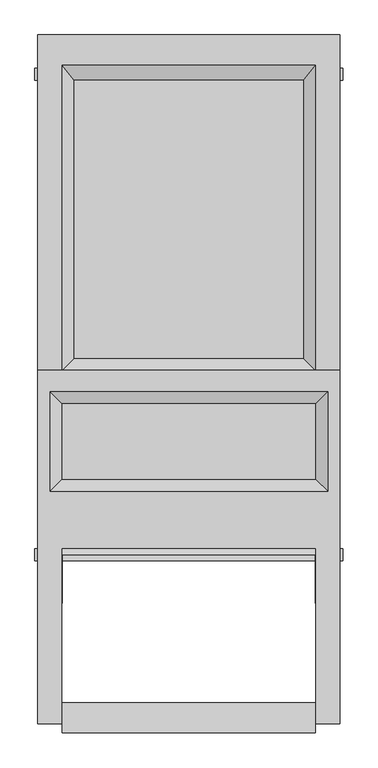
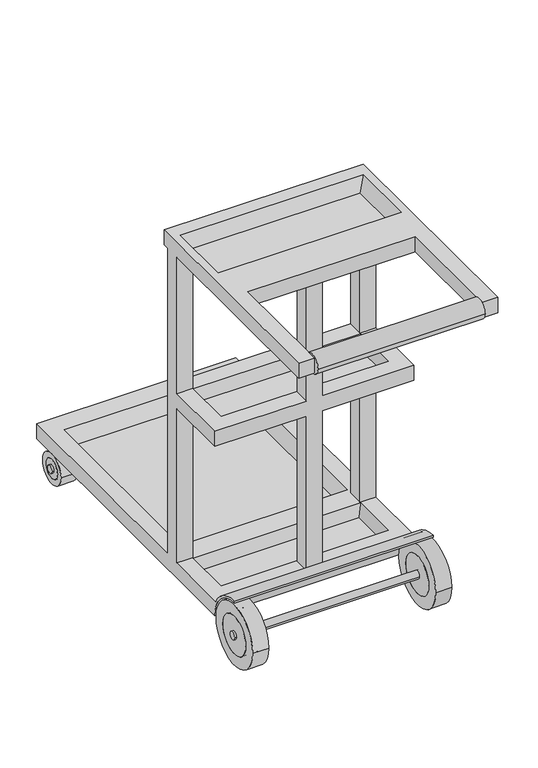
"""IFC4 building model written with IfcOpenShell, lengths in millimetres: proxy geometry, BIMHealth-Cleaners_Trolley-LOD2A-v1 : BIMHealth-Cleaners_Trolley-LOD2A-v1."""

import ifcopenshell
import ifcopenshell.guid

model = None  # the IFC model being written
_history = None  # IfcOwnerHistory: only IFC2X3 demands one
_inside = {}  # id of a spatial element -> (the spatial element, [elements in it])
_under = {}  # id of a project, library or spatial element -> (it, [spatial elements below it])
_declared = {}  # id of a project -> (the project, [libraries it declares])
_typed = {}  # id of a type object -> (the type object, [elements of that type])
_made_of = {}  # id of a material, layer set ... -> (it, [elements and type objects made of it])


def new_model(schema):
    """Start an empty IFC model of exactly this schema.

    Asked for "IFC4X3", IfcOpenShell would pick the latest addendum, in which some entities
    have other attributes; the version numbers below select the first issue.
    IFC2X3 requires an IfcOwnerHistory on every rooted entity: one is made here for all.
    """
    global model, _history
    if schema == "IFC4X3":
        model = ifcopenshell.file(schema_version=(4, 3, 0, 0))
    else:
        model = ifcopenshell.file(schema=schema)
    _inside.clear()
    _under.clear()
    _declared.clear()
    _typed.clear()
    _made_of.clear()
    _history = None
    if model.schema == "IFC2X3":
        org = make("IfcOrganization", Name="unknown")
        user = make(
            "IfcPersonAndOrganization",
            ThePerson=make("IfcPerson", FamilyName="unknown"),
            TheOrganization=org,
        )
        app = make(
            "IfcApplication",
            ApplicationDeveloper=org,
            Version="unknown",
            ApplicationFullName="unknown",
            ApplicationIdentifier="unknown",
        )
        _history = make(
            "IfcOwnerHistory",
            OwningUser=user,
            OwningApplication=app,
            ChangeAction="ADDED",
            CreationDate=0,
        )
    return model


def make(cls, **values):
    """One entity of the class cls with the attributes given. An attribute that is None is left unset."""
    return model.create_entity(
        cls, **{name: value for name, value in values.items() if value is not None}
    )


def rooted(cls, **values):
    """An entity with a GlobalId (a new one), such as an element, a storey or a relation."""
    return make(cls, GlobalId=ifcopenshell.guid.new(), OwnerHistory=_history, **values)


def si_unit(unit_type, name, prefix=None):
    """IfcSIUnit, for example si_unit("LENGTHUNIT", "METRE", prefix="MILLI")."""
    return make("IfcSIUnit", UnitType=unit_type, Prefix=prefix, Name=name)


def assignment(units):
    """IfcUnitAssignment: the units of a project."""
    return None if units is None else make("IfcUnitAssignment", Units=units)


def point(xyz):
    """IfcCartesianPoint."""
    return None if xyz is None else make("IfcCartesianPoint", Coordinates=xyz)


def direction(xyz):
    """IfcDirection."""
    return None if xyz is None else make("IfcDirection", DirectionRatios=xyz)


def frame(location, z_axis=None, x_axis=None):
    """IfcAxis2Placement3D, a coordinate frame: its origin and axes. An axis left out is left unset."""
    return make(
        "IfcAxis2Placement3D",
        Location=point(location),
        Axis=direction(z_axis),
        RefDirection=direction(x_axis),
    )


def frame_2d(location, x_axis=None):
    """IfcAxis2Placement2D, a coordinate frame in the plane: its origin and x axis."""
    return make(
        "IfcAxis2Placement2D", Location=point(location), RefDirection=direction(x_axis)
    )


def origin():
    """The frame at (0, 0, 0) with its axes left unset."""
    return frame((0.0, 0.0, 0.0))


def place(relative_to, where):
    """IfcLocalPlacement: puts the frame where relative to a parent placement (None: the world)."""
    return make(
        "IfcLocalPlacement", PlacementRelTo=relative_to, RelativePlacement=where
    )


def context(
    kind, dimensions, precision=None, world=None, true_north=None, identifier=None
):
    """IfcGeometricRepresentationContext, for example the 3D "Model" context."""
    return make(
        "IfcGeometricRepresentationContext",
        ContextIdentifier=identifier,
        ContextType=kind,
        CoordinateSpaceDimension=dimensions,
        Precision=precision,
        WorldCoordinateSystem=world,
        TrueNorth=true_north,
    )


def project(units=None, contexts=None):
    """IfcProject with its units and contexts."""
    return rooted(
        "IfcProject",
        Name="project",
        RepresentationContexts=contexts,
        UnitsInContext=assignment(units),
    )


def spatial(cls, under=None, at=None, **own):
    """A site, building, storey or space (cls), placed at a placement, below another one or the project."""
    s = rooted(cls, ObjectPlacement=at, **own)
    if under is not None:
        _under.setdefault(under.id(), (under, []))[1].append(s)
    return s


def polyline(points):
    """IfcPolyline through the points."""
    return make("IfcPolyline", Points=[point(p) for p in points])


def circle_curve(where, radius):
    """IfcCircle in the frame where."""
    return make("IfcCircle", Position=where, Radius=radius)


def trimmed(basis, trim1, trim2, sense, master):
    """IfcTrimmedCurve: the piece of a basis curve between two trims."""
    return make(
        "IfcTrimmedCurve",
        BasisCurve=basis,
        Trim1=trim1,
        Trim2=trim2,
        SenseAgreement=sense,
        MasterRepresentation=master,
    )


def segment(curve, same_sense, transition):
    """IfcCompositeCurveSegment."""
    return make(
        "IfcCompositeCurveSegment",
        Transition=transition,
        SameSense=same_sense,
        ParentCurve=curve,
    )


def composite_curve(segments, self_intersect=None):
    """IfcCompositeCurve: segments joined end to end."""
    return make("IfcCompositeCurve", Segments=segments, SelfIntersect=self_intersect)


def outline(outer, holes=None, kind="AREA"):
    """IfcArbitraryClosedProfileDef: a profile drawn as a closed curve; with holes, ...WithVoids."""
    if holes is None:
        return make("IfcArbitraryClosedProfileDef", ProfileType=kind, OuterCurve=outer)
    return make(
        "IfcArbitraryProfileDefWithVoids",
        ProfileType=kind,
        OuterCurve=outer,
        InnerCurves=holes,
    )


def extrude(swept, where, along, depth):
    """IfcExtrudedAreaSolid: the profile swept, set in the frame where, extruded along a direction by depth."""
    return make(
        "IfcExtrudedAreaSolid",
        SweptArea=swept,
        Position=where,
        ExtrudedDirection=direction(along),
        Depth=depth,
    )


def shape(context_of_items, identifier, shape_type, items):
    """IfcShapeRepresentation: the items that make up one representation, for example the "Body"."""
    return make(
        "IfcShapeRepresentation",
        ContextOfItems=context_of_items,
        RepresentationIdentifier=identifier,
        RepresentationType=shape_type,
        Items=items,
    )


def source(mapping_origin, context_of_items, identifier, shape_type, items):
    """IfcRepresentationMap: a shape defined once, which mapped items show again and again."""
    return make(
        "IfcRepresentationMap",
        MappingOrigin=mapping_origin,
        MappedRepresentation=shape(context_of_items, identifier, shape_type, items),
    )


def transform(
    local_origin,
    x_axis=None,
    y_axis=None,
    z_axis=None,
    scale=None,
    scale2=None,
    scale3=None,
    uniform=True,
):
    """IfcCartesianTransformationOperator3D, or its non-uniform kind. x_axis, y_axis, z_axis: its Axis1, 2, 3."""
    if uniform:
        return make(
            "IfcCartesianTransformationOperator3D",
            Axis1=direction(x_axis),
            Axis2=direction(y_axis),
            LocalOrigin=point(local_origin),
            Scale=scale,
            Axis3=direction(z_axis),
        )
    return make(
        "IfcCartesianTransformationOperator3DnonUniform",
        Axis1=direction(x_axis),
        Axis2=direction(y_axis),
        LocalOrigin=point(local_origin),
        Scale=scale,
        Axis3=direction(z_axis),
        Scale2=scale2,
        Scale3=scale3,
    )


def mapped(mapping_source, mapping_target):
    """IfcMappedItem: shows the shape of a source again, moved by a transform."""
    return make(
        "IfcMappedItem", MappingSource=mapping_source, MappingTarget=mapping_target
    )


def made_of(thing, what):
    """Note that an element or type object is made of a material, layer set ...; save() writes the relation."""
    if what is not None:
        _made_of.setdefault(what.id(), (what, []))[1].append(thing)
    return thing


def element(
    cls,
    number,
    at=None,
    inside=None,
    cuts=None,
    type_object=None,
    material=None,
    context=None,
    identifier="Body",
    shape_type=None,
    held_by="IfcProductDefinitionShape",
    body=None,
    shapes=None,
    **own,
):
    """One element of the class cls, such as IfcWall. Its Tag is "e" and its number.

    at: its placement. inside: the storey or other place that contains it. cuts: it is an
    opening in that element (IfcRelVoidsElement). A single representation is given by context,
    identifier, shape_type and body (its items); several are given by shapes. held_by: the class
    of the entity that holds the representations. save() writes the other relations.
    """
    e = rooted(cls, Tag="e%d" % number, ObjectPlacement=at, **own)
    if body is not None:
        shapes = [shape(context, identifier, shape_type, body)]
    if shapes is not None:
        e.Representation = make(held_by, Representations=shapes)
    if inside is not None:
        _inside.setdefault(inside.id(), (inside, []))[1].append(e)
    if cuts is not None:
        rooted(
            "IfcRelVoidsElement", RelatingBuildingElement=cuts, RelatedOpeningElement=e
        )
    if type_object is not None:
        _typed.setdefault(type_object.id(), (type_object, []))[1].append(e)
    return made_of(e, material)


def aggregate(whole, parts):
    """IfcRelAggregates: a whole, such as a stair, and the parts it consists of."""
    return rooted("IfcRelAggregates", RelatingObject=whole, RelatedObjects=parts)


def save(model, path):
    """Write the relations noted so far, then the file.

    IfcRelAggregates (storeys below a building ...), IfcRelContainedInSpatialStructure (elements
    in a storey), IfcRelDefinesByType, IfcRelAssociatesMaterial and IfcRelDeclares: one each for
    every whole, place, type object, material and project.
    """
    for whole, parts in _under.values():
        aggregate(whole, parts)
    for where, things in _inside.values():
        rooted(
            "IfcRelContainedInSpatialStructure",
            RelatedElements=things,
            RelatingStructure=where,
        )
    for kind, things in _typed.values():
        rooted("IfcRelDefinesByType", RelatedObjects=things, RelatingType=kind)
    for what, things in _made_of.values():
        rooted("IfcRelAssociatesMaterial", RelatedObjects=things, RelatingMaterial=what)
    for by, libraries in _declared.values():
        rooted("IfcRelDeclares", RelatingContext=by, RelatedDefinitions=libraries)
    model.write(path)


def plane_surface(at):
    """IfcPlane: the flat surface through the origin of the frame at, square to its z axis."""
    return make("IfcPlane", Position=at)


def cylinder_surface(at, radius):
    """IfcCylindricalSurface: all points at the distance radius from the z axis of the frame at."""
    return make("IfcCylindricalSurface", Position=at, Radius=radius)


def revolved_surface(curve, axis_point, axis_direction):
    """IfcSurfaceOfRevolution: the curve turned about the line through axis_point along axis_direction."""
    return make(
        "IfcSurfaceOfRevolution",
        SweptCurve=make("IfcArbitraryOpenProfileDef", ProfileType="CURVE", Curve=curve),
        AxisPosition=make("IfcAxis1Placement", Location=point(axis_point), Axis=direction(axis_direction)),
    )


def advanced_brep(points, edges, surfaces, faces):
    """IfcAdvancedBrep: a solid bounded by faces that lie on surfaces and meet in shared edges.

    An edge is (start, end): straight between two places in points (the first is 0);
    or (start, end, curve); or (start, end, curve, False) where it runs against its curve.
    A face is (place in surfaces, loops), or (place, loops, False) where it looks against
    its surface's normal. A loop lists edges by number (the first is 1), with a minus sign
    where the edge is run from its end to its start. The first loop is the outer one.
    """
    corners = [point(p) for p in points]
    vertices = [make("IfcVertexPoint", VertexGeometry=c) for c in corners]
    made = []
    for start, end, *more in edges:
        made.append(
            make(
                "IfcEdgeCurve",
                EdgeStart=vertices[start],
                EdgeEnd=vertices[end],
                EdgeGeometry=more[0] if more else make("IfcPolyline", Points=[corners[start], corners[end]]),
                SameSense=more[1] if len(more) > 1 else True,
            )
        )
    hull = []
    for where, loops, *sense in faces:
        bounds = []
        for j, loop in enumerate(loops):
            ring = [make("IfcOrientedEdge", EdgeElement=made[abs(k) - 1], Orientation=k > 0) for k in loop]
            bounds.append(
                make(
                    "IfcFaceOuterBound" if j == 0 else "IfcFaceBound",
                    Bound=make("IfcEdgeLoop", EdgeList=ring),
                    Orientation=True,
                )
            )
        hull.append(make("IfcAdvancedFace", Bounds=bounds, FaceSurface=surfaces[where], SameSense=sense[0] if sense else True))
    return make("IfcAdvancedBrep", Outer=make("IfcClosedShell", CfsFaces=hull))


def generic_models_fc8a6c12(model_context):
    return source(origin(), model_context, "Body", "SolidModel", [
        extrude(outline(composite_curve([segment(trimmed(circle_curve(frame_2d((-1330.0, 952.0)), 25.0), [point((-1305.0, 952.0))], [point((-1355.0, 952.0))], False, "CARTESIAN"), True, "CONTINUOUS"), segment(trimmed(circle_curve(frame_2d((-1330.0, 952.0)), 25.0), [point((-1355.0, 952.0))], [point((-1305.0, 952.0))], False, "CARTESIAN"), True, "CONTINUOUS")], self_intersect=False)), frame((40.0, 0.0, 0.0), z_axis=(1.0, 0.0, 0.0), x_axis=(0.0, 1.0, 0.0)), (0.0, 0.0, 1.0), 420.0),
        advanced_brep(
        [(500.0, -200.0, 80.0), (500.0, -200.0, 120.0), (500.0, -770.0, 120.0), (500.0, -770.0, 932.0), (500.0, -755.0, 932.0), (500.0, -755.0, 972.0), (500.0, -1340.0, 972.0), (500.0, -1340.0, 932.0), (500.0, -810.0, 932.0), (500.0, -810.0, 570.0), (500.0, -975.0, 570.0), (500.0, -975.0, 530.0), (500.0, -810.0, 530.0), (500.0, -810.0, 120.0), (500.0, -979.3774225, 120.0), (500.0, -1060.0, 170.0), (500.0, -1060.0, 165.0), (500.0, -975.0, 80.0), (0.0, -200.0, 80.0), (0.0, -975.0, 80.0), (0.0, -1060.0, 165.0), (0.0, -1060.0, 170.0), (0.0, -979.3774225, 120.0), (0.0, -810.0, 120.0), (0.0, -810.0, 530.0), (0.0, -975.0, 530.0), (0.0, -975.0, 570.0), (0.0, -810.0, 570.0), (0.0, -810.0, 932.0), (0.0, -1340.0, 932.0), (0.0, -1340.0, 972.0), (0.0, -755.0, 972.0), (0.0, -755.0, 932.0), (0.0, -770.0, 932.0), (0.0, -770.0, 120.0), (0.0, -200.0, 120.0), (40.0, -770.0, 120.0), (40.0, -810.0, 120.0), (460.0, -810.0, 120.0), (460.0, -770.0, 120.0), (460.0, -250.0, 120.0), (460.0, -755.0, 120.0), (40.0, -755.0, 120.0), (40.0, -250.0, 120.0), (270.0, -975.0, 120.0), (230.0, -975.0, 120.0), (230.0, -935.0, 120.0), (270.0, -935.0, 120.0), (40.0, -812.5, 120.0), (460.0, -812.5, 120.0), (460.0, -932.5, 120.0), (40.0, -932.5, 120.0), (460.0, -810.0, 942.0), (40.0, -810.0, 942.0), (40.0, -935.0, 942.0), (460.0, -935.0, 942.0), (480.0, -790.0, 972.0), (20.0, -790.0, 972.0), (20.0, -955.0, 972.0), (480.0, -955.0, 972.0), (440.0, -735.0, 90.0), (440.0, -275.0, 90.0), (60.0, -275.0, 90.0), (60.0, -735.0, 90.0), (40.0, -1320.0, 972.0), (40.0, -1050.0, 972.0), (460.0, -1050.0, 972.0), (460.0, -1320.0, 972.0), (40.0, -810.0, 932.0), (40.0, -770.0, 932.0), (460.0, -770.0, 932.0), (460.0, -810.0, 932.0), (40.0, -1320.0, 932.0), (460.0, -1320.0, 932.0), (460.0, -1050.0, 932.0), (40.0, -1050.0, 932.0), (230.0, -975.0, 932.0), (270.0, -975.0, 932.0), (270.0, -935.0, 932.0), (230.0, -935.0, 932.0), (40.0, -810.0, 530.0), (40.0, -810.0, 570.0), (40.0, -770.0, 530.0), (40.0, -770.0, 570.0), (460.0, -770.0, 570.0), (460.0, -770.0, 530.0), (460.0, -810.0, 530.0), (460.0, -810.0, 570.0), (270.0, -975.0, 530.0), (270.0, -975.0, 570.0), (230.0, -975.0, 570.0), (230.0, -975.0, 530.0), (270.0, -935.0, 530.0), (270.0, -935.0, 570.0), (230.0, -935.0, 530.0), (230.0, -935.0, 570.0), (40.0, -812.5, 570.0), (460.0, -812.5, 570.0), (460.0, -932.5, 570.0), (40.0, -932.5, 570.0), (450.0, -822.5, 540.0), (50.0, -822.5, 540.0), (50.0, -922.5, 540.0), (450.0, -922.5, 540.0), (450.0, -822.5, 90.0), (50.0, -822.5, 90.0), (50.0, -922.5, 90.0), (450.0, -922.5, 90.0)],
        [
            (0, 1),
            (1, 2),
            (2, 3),
            (3, 4),
            (4, 5),
            (5, 6),
            (6, 7),
            (7, 8),
            (8, 9),
            (9, 10),
            (10, 11),
            (11, 12),
            (12, 13),
            (13, 14),
            (14, 15, circle_curve(frame((500.0, -1060.0, 80.0), z_axis=(1.0, 0.0, 0.0), x_axis=(0.0, -1.0, 0.0)), 90.0)),
            (15, 16),
            (16, 17, circle_curve(frame((500.0, -1060.0, 80.0), z_axis=(-1.0, 0.0, 0.0), x_axis=(0.0, -1.0, 0.0)), 85.0)),
            (17, 0),
            (18, 19),
            (19, 20, circle_curve(frame((0.0, -1060.0, 80.0), z_axis=(1.0, 0.0, 0.0), x_axis=(0.0, -1.0, 0.0)), 85.0)),
            (20, 21),
            (21, 22, circle_curve(frame((0.0, -1060.0, 80.0), z_axis=(-1.0, 0.0, 0.0), x_axis=(0.0, -1.0, 0.0)), 90.0)),
            (22, 23),
            (23, 24),
            (24, 25),
            (25, 26),
            (26, 27),
            (27, 28),
            (28, 29),
            (29, 30),
            (30, 31),
            (31, 32),
            (32, 33),
            (33, 34),
            (34, 35),
            (35, 18),
            (0, 18),
            (35, 1),
            (34, 36),
            (36, 37),
            (37, 23),
            (22, 14),
            (13, 38),
            (38, 39),
            (39, 2),
            (40, 41),
            (41, 42),
            (42, 43),
            (43, 40),
            (44, 45),
            (45, 46),
            (46, 47),
            (47, 44),
            (48, 49),
            (49, 50),
            (50, 51),
            (51, 48),
            (21, 15),
            (20, 16),
            (19, 17),
            (52, 53),
            (53, 54),
            (54, 55),
            (55, 52),
            (52, 56),
            (56, 57),
            (57, 53),
            (57, 58),
            (58, 54),
            (58, 59),
            (59, 55),
            (59, 56),
            (60, 61),
            (61, 62),
            (62, 63),
            (63, 60),
            (60, 41),
            (40, 61),
            (43, 62),
            (42, 63),
            (5, 31),
            (30, 6),
            (64, 65),
            (65, 66),
            (66, 67),
            (67, 64),
            (7, 29),
            (28, 68),
            (68, 69),
            (69, 33),
            (32, 4),
            (3, 70),
            (70, 71),
            (71, 8),
            (72, 73),
            (73, 74),
            (74, 75),
            (75, 72),
            (76, 77),
            (77, 78),
            (78, 79),
            (79, 76),
            (64, 72),
            (75, 65),
            (74, 66),
            (73, 67),
            (37, 80),
            (80, 24),
            (27, 81),
            (81, 68),
            (36, 82),
            (82, 80),
            (81, 83),
            (83, 69),
            (83, 84),
            (84, 70),
            (39, 85),
            (85, 82),
            (12, 86),
            (86, 38),
            (71, 87),
            (87, 9),
            (86, 85),
            (84, 87),
            (44, 88),
            (88, 11),
            (10, 89),
            (89, 77),
            (76, 90),
            (90, 26),
            (25, 91),
            (91, 45),
            (47, 92),
            (92, 88),
            (89, 93),
            (93, 78),
            (46, 94),
            (94, 92),
            (93, 95),
            (95, 79),
            (91, 94),
            (95, 90),
            (96, 97),
            (97, 98),
            (98, 99),
            (99, 96),
            (100, 101),
            (101, 102),
            (102, 103),
            (103, 100),
            (100, 97),
            (96, 101),
            (99, 102),
            (98, 103),
            (104, 105),
            (105, 106),
            (106, 107),
            (107, 104),
            (104, 49),
            (48, 105),
            (51, 106),
            (50, 107),
        ],
        [
            plane_surface(frame((500.0, -200.0, 120.0), z_axis=(1.0, 0.0, 0.0), x_axis=(0.0, 0.0, 1.0))),
            plane_surface(frame((0.0, -200.0, 120.0), z_axis=(-1.0, 0.0, 0.0), x_axis=(0.0, 0.0, -1.0))),
            plane_surface(frame((500.0, -200.0, 80.0), z_axis=(0.0, 1.0, 0.0), x_axis=(-1.0, 0.0, 0.0))),
            plane_surface(frame((500.0, -200.0, 120.0), z_axis=(0.0, 0.0, 1.0), x_axis=(-1.0, 0.0, 0.0))),
            cylinder_surface(frame((0.0, -1060.0, 80.0), z_axis=(1.0, 0.0, 0.0), x_axis=(0.0, -1.0, 0.0)), 90.0),
            plane_surface(frame((500.0, -1060.0, 170.0), z_axis=(0.0, -1.0, 0.0), x_axis=(-1.0, 0.0, 0.0))),
            revolved_surface(polyline([(0.0, -1145.0, 80.0), (500.0, -1145.0, 80.0)]), (0.0, -1060.0, 80.0), (-1.0, 0.0, 0.0)),
            plane_surface(frame((500.0, -975.0, 80.0), z_axis=(0.0, 0.0, -1.0), x_axis=(-1.0, 0.0, 0.0))),
            plane_surface(frame((250.0, -872.5, 942.0), z_axis=(0.0, 0.0, 1.0), x_axis=(-1.0, 0.0, 0.0))),
            plane_surface(frame((250.0, -810.0, 942.0), z_axis=(0.0, -0.8320502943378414, 0.5547001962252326), x_axis=(-1.0, 0.0, 0.0))),
            plane_surface(frame((40.0, -872.5, 942.0), z_axis=(0.8320502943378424, 0.0, 0.5547001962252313), x_axis=(0.0, -1.0, 0.0))),
            plane_surface(frame((250.0, -935.0, 942.0), z_axis=(0.0, 0.8320502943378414, 0.5547001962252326), x_axis=(1.0, 0.0, 0.0))),
            plane_surface(frame((460.0, -872.5, 942.0), z_axis=(-0.8320502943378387, 0.0, 0.5547001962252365), x_axis=(0.0, 1.0, 0.0))),
            plane_surface(frame((250.0, -505.0, 90.0), z_axis=(0.0, 0.0, 1.0), x_axis=(-1.0, 0.0, 0.0))),
            plane_surface(frame((440.0, -505.0, 90.0), z_axis=(-0.8320502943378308, 0.0, 0.5547001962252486), x_axis=(0.0, 1.0, 0.0))),
            plane_surface(frame((250.0, -275.0, 90.0), z_axis=(0.0, -0.7682212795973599, 0.6401843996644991), x_axis=(-1.0, 0.0, 0.0))),
            plane_surface(frame((60.0, -505.0, 90.0), z_axis=(0.8320502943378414, 0.0, 0.5547001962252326), x_axis=(0.0, -1.0, 0.0))),
            plane_surface(frame((250.0, -735.0, 90.0), z_axis=(0.0, 0.83205029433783, 0.5547001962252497), x_axis=(1.0, 0.0, 0.0))),
            plane_surface(frame((0.0, -755.0, 972.0), z_axis=(0.0, 0.0, 1.0), x_axis=(-1.0, 0.0, 0.0))),
            plane_surface(frame((0.0, -755.0, 932.0), z_axis=(0.0, 0.0, -1.0), x_axis=(1.0, 0.0, 0.0))),
            plane_surface(frame((500.0, -755.0, 972.0), z_axis=(0.0, 1.0, 0.0), x_axis=(0.0, 0.0, -1.0))),
            plane_surface(frame((0.0, -1340.0, 972.0), z_axis=(0.0, -1.0, 0.0), x_axis=(0.0, 0.0, -1.0))),
            plane_surface(frame((40.0, -1320.0, 972.0), z_axis=(1.0, 0.0, 0.0), x_axis=(0.0, 0.0, -1.0))),
            plane_surface(frame((40.0, -1050.0, 972.0), z_axis=(0.0, -1.0, 0.0), x_axis=(0.0, 0.0, -1.0))),
            plane_surface(frame((460.0, -1050.0, 972.0), z_axis=(-1.0, 0.0, 0.0), x_axis=(0.0, 0.0, -1.0))),
            plane_surface(frame((460.0, -1320.0, 972.0), z_axis=(0.0, 1.0, 0.0), x_axis=(0.0, 0.0, -1.0))),
            plane_surface(frame((0.0, -810.0, 932.0), z_axis=(0.0, -1.0, 0.0), x_axis=(0.0, 0.0, -1.0))),
            plane_surface(frame((40.0, -810.0, 932.0), z_axis=(1.0, 0.0, 0.0), x_axis=(0.0, 0.0, -1.0))),
            plane_surface(frame((40.0, -770.0, 932.0), z_axis=(0.0, 1.0, 0.0), x_axis=(0.0, 0.0, -1.0))),
            plane_surface(frame((460.0, -810.0, 932.0), z_axis=(0.0, -1.0, 0.0), x_axis=(0.0, 0.0, -1.0))),
            plane_surface(frame((460.0, -770.0, 932.0), z_axis=(-1.0, 0.0, 0.0), x_axis=(0.0, 0.0, -1.0))),
            plane_surface(frame((230.0, -975.0, 932.0), z_axis=(0.0, -1.0, 0.0), x_axis=(0.0, 0.0, -1.0))),
            plane_surface(frame((270.0, -975.0, 932.0), z_axis=(1.0, 0.0, 0.0), x_axis=(0.0, 0.0, -1.0))),
            plane_surface(frame((270.0, -935.0, 932.0), z_axis=(0.0, 1.0, 0.0), x_axis=(0.0, 0.0, -1.0))),
            plane_surface(frame((230.0, -935.0, 932.0), z_axis=(-1.0, 0.0, 0.0), x_axis=(0.0, 0.0, -1.0))),
            plane_surface(frame((0.0, -770.0, 570.0), z_axis=(0.0, 0.0, 1.0), x_axis=(-1.0, 0.0, 0.0))),
            plane_surface(frame((0.0, -770.0, 530.0), z_axis=(0.0, 0.0, -1.0), x_axis=(1.0, 0.0, 0.0))),
            plane_surface(frame((250.0, -872.5, 540.0), z_axis=(0.0, 0.0, 1.0), x_axis=(-1.0, 0.0, 0.0))),
            plane_surface(frame((250.0, -822.5, 540.0), z_axis=(0.0, -0.9486832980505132, 0.3162277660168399), x_axis=(-1.0, 0.0, 0.0))),
            plane_surface(frame((50.0, -872.5, 540.0), z_axis=(0.9486832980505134, 0.0, 0.31622776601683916), x_axis=(0.0, -1.0, 0.0))),
            plane_surface(frame((250.0, -922.5, 540.0), z_axis=(0.0, 0.9486832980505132, 0.3162277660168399), x_axis=(1.0, 0.0, 0.0))),
            plane_surface(frame((450.0, -872.5, 540.0), z_axis=(-0.9486832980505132, 0.0, 0.3162277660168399), x_axis=(0.0, 1.0, 0.0))),
            plane_surface(frame((250.0, -872.5, 90.0), z_axis=(0.0, 0.0, 1.0), x_axis=(-1.0, 0.0, 0.0))),
            plane_surface(frame((250.0, -822.5, 90.0), z_axis=(0.0, -0.9486832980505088, 0.31622776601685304), x_axis=(-1.0, 0.0, 0.0))),
            plane_surface(frame((50.0, -872.5, 90.0), z_axis=(0.948683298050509, 0.0, 0.31622776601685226), x_axis=(0.0, -1.0, 0.0))),
            plane_surface(frame((250.0, -922.5, 90.0), z_axis=(0.0, 0.9486832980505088, 0.31622776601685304), x_axis=(1.0, 0.0, 0.0))),
            plane_surface(frame((450.0, -872.5, 90.0), z_axis=(-0.9486832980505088, 0.0, 0.31622776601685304), x_axis=(0.0, 1.0, 0.0))),
        ],
        [
            (0, [[1, 2, 3, 4, 5, 6, 7, 8, 9, 10, 11, 12, 13, 14, 15, 16, 17, 18]]),
            (1, [[19, 20, 21, 22, 23, 24, 25, 26, 27, 28, 29, 30, 31, 32, 33, 34, 35, 36]]),
            (2, [[-1, 37, -36, 38]]),
            (3, [[-38, -35, 39, 40, 41, -23, 42, -14, 43, 44, 45, -2], [46, 47, 48, 49], [50, 51, 52, 53], [54, 55, 56, 57]]),
            (4, [[-15, -42, -22, 58]]),
            (5, [[-16, -58, -21, 59]]),
            (6, [[-17, -59, -20, 60]]),
            (7, [[-18, -60, -19, -37]]),
            (8, [[61, 62, 63, 64]]),
            (9, [[-61, 65, 66, 67]]),
            (10, [[-62, -67, 68, 69]]),
            (11, [[-63, -69, 70, 71]]),
            (12, [[-64, -71, 72, -65]]),
            (13, [[73, 74, 75, 76]]),
            (14, [[-73, 77, -46, 78]]),
            (15, [[-74, -78, -49, 79]]),
            (16, [[-75, -79, -48, 80]]),
            (17, [[-76, -80, -47, -77]]),
            (18, [[81, -31, 82, -6], [-66, -72, -70, -68], [83, 84, 85, 86]]),
            (19, [[87, -29, 88, 89, 90, -33, 91, -4, 92, 93, 94, -8], [95, 96, 97, 98], [99, 100, 101, 102]]),
            (20, [[-81, -5, -91, -32]]),
            (21, [[-82, -30, -87, -7]]),
            (22, [[-83, 103, -98, 104]]),
            (23, [[-84, -104, -97, 105]]),
            (24, [[-85, -105, -96, 106]]),
            (25, [[-86, -106, -95, -103]]),
            (26, [[-41, 107, 108, -24]]),
            (26, [[-88, -28, 109, 110]]),
            (27, [[-40, 111, 112, -107]]),
            (27, [[-89, -110, 113, 114]]),
            (28, [[-39, -34, -90, -114, 115, 116, -92, -3, -45, 117, 118, -111]]),
            (29, [[-43, -13, 119, 120]]),
            (29, [[-94, 121, 122, -9]]),
            (30, [[-44, -120, 123, -117]]),
            (30, [[-93, -116, 124, -121]]),
            (31, [[-50, 125, 126, -11, 127, 128, -99, 129, 130, -26, 131, 132]]),
            (32, [[-53, 133, 134, -125]]),
            (32, [[-100, -128, 135, 136]]),
            (33, [[-52, 137, 138, -133]]),
            (33, [[-101, -136, 139, 140]]),
            (34, [[-51, -132, 141, -137]]),
            (34, [[-102, -140, 142, -129]]),
            (35, [[-10, -122, -124, -115, -113, -109, -27, -130, -142, -139, -135, -127], [143, 144, 145, 146]]),
            (36, [[-12, -126, -134, -138, -141, -131, -25, -108, -112, -118, -123, -119]]),
            (37, [[147, 148, 149, 150]]),
            (38, [[-147, 151, -143, 152]]),
            (39, [[-148, -152, -146, 153]]),
            (40, [[-149, -153, -145, 154]]),
            (41, [[-150, -154, -144, -151]]),
            (42, [[155, 156, 157, 158]]),
            (43, [[-155, 159, -54, 160]]),
            (44, [[-156, -160, -57, 161]]),
            (45, [[-157, -161, -56, 162]]),
            (46, [[-158, -162, -55, -159]]),
        ],
    ),
        extrude(outline(composite_curve([segment(trimmed(circle_curve(frame_2d((-265.0, 40.0)), 10.0), [point((-255.0, 40.0))], [point((-275.0, 40.0))], False, "CARTESIAN"), True, "CONTINUOUS"), segment(trimmed(circle_curve(frame_2d((-265.0, 40.0)), 10.0), [point((-275.0, 40.0))], [point((-255.0, 40.0))], False, "CARTESIAN"), True, "CONTINUOUS")], self_intersect=False)), frame((-5.0, 0.0, 0.0), z_axis=(1.0, 0.0, 0.0), x_axis=(0.0, 1.0, 0.0)), (0.0, 0.0, 1.0), 510.0),
        extrude(outline(composite_curve([segment(trimmed(circle_curve(frame_2d((-1060.0, 80.0)), 10.0), [point((-1050.0, 80.0))], [point((-1070.0, 80.0))], False, "CARTESIAN"), True, "CONTINUOUS"), segment(trimmed(circle_curve(frame_2d((-1060.0, 80.0)), 10.0), [point((-1070.0, 80.0))], [point((-1050.0, 80.0))], False, "CARTESIAN"), True, "CONTINUOUS")], self_intersect=False)), frame((-5.0, 0.0, 0.0), z_axis=(1.0, 0.0, 0.0), x_axis=(0.0, 1.0, 0.0)), (0.0, 0.0, 1.0), 510.0),
        extrude(outline(composite_curve([segment(trimmed(circle_curve(frame_2d((-1060.0, 80.0)), 50.0), [point((-1010.0, 80.0))], [point((-1110.0, 80.0))], False, "CARTESIAN"), True, "CONTINUOUS"), segment(trimmed(circle_curve(frame_2d((-1060.0, 80.0)), 50.0), [point((-1110.0, 80.0))], [point((-1010.0, 80.0))], False, "CARTESIAN"), True, "CONTINUOUS")], self_intersect=False)), frame((460.0, 0.0, 0.0), z_axis=(1.0, 0.0, 0.0), x_axis=(0.0, 1.0, 0.0)), (0.0, 0.0, 1.0), 40.0),
        extrude(outline(composite_curve([segment(trimmed(circle_curve(frame_2d((-1060.0, 80.0)), 50.0), [point((-1010.0, 80.0))], [point((-1110.0, 80.0))], False, "CARTESIAN"), True, "CONTINUOUS"), segment(trimmed(circle_curve(frame_2d((-1060.0, 80.0)), 50.0), [point((-1110.0, 80.0))], [point((-1010.0, 80.0))], False, "CARTESIAN"), True, "CONTINUOUS")], self_intersect=False)), frame((0.0, 0.0, 0.0), z_axis=(1.0, 0.0, 0.0), x_axis=(0.0, 1.0, 0.0)), (0.0, 0.0, 1.0), 40.0),
        extrude(outline(composite_curve([segment(trimmed(circle_curve(frame_2d((-265.0, 40.0)), 25.0), [point((-240.0, 40.0))], [point((-290.0, 40.0))], False, "CARTESIAN"), True, "CONTINUOUS"), segment(trimmed(circle_curve(frame_2d((-265.0, 40.0)), 25.0), [point((-290.0, 40.0))], [point((-240.0, 40.0))], False, "CARTESIAN"), True, "CONTINUOUS")], self_intersect=False)), frame((460.0, 0.0, 0.0), z_axis=(1.0, 0.0, 0.0), x_axis=(0.0, 1.0, 0.0)), (0.0, 0.0, 1.0), 40.0),
        extrude(outline(composite_curve([segment(trimmed(circle_curve(frame_2d((-265.0, 40.0)), 40.0), [point((-225.0, 40.0))], [point((-305.0, 40.0))], False, "CARTESIAN"), True, "CONTINUOUS"), segment(trimmed(circle_curve(frame_2d((-265.0, 40.0)), 40.0), [point((-305.0, 40.0))], [point((-225.0, 40.0))], False, "CARTESIAN"), True, "CONTINUOUS")], self_intersect=False), holes=[composite_curve([segment(trimmed(circle_curve(frame_2d((-265.0, 40.0)), 25.0), [point((-240.0, 40.0))], [point((-290.0, 40.0))], True, "CARTESIAN"), True, "CONTINUOUS"), segment(trimmed(circle_curve(frame_2d((-265.0, 40.0)), 25.0), [point((-290.0, 40.0))], [point((-240.0, 40.0))], True, "CARTESIAN"), True, "CONTINUOUS")], self_intersect=False)]), frame((460.0, 0.0, 0.0), z_axis=(1.0, 0.0, 0.0), x_axis=(0.0, 1.0, 0.0)), (0.0, 0.0, 1.0), 40.0),
        extrude(outline(composite_curve([segment(trimmed(circle_curve(frame_2d((-265.0, 40.0)), 25.0), [point((-240.0, 40.0))], [point((-290.0, 40.0))], False, "CARTESIAN"), True, "CONTINUOUS"), segment(trimmed(circle_curve(frame_2d((-265.0, 40.0)), 25.0), [point((-290.0, 40.0))], [point((-240.0, 40.0))], False, "CARTESIAN"), True, "CONTINUOUS")], self_intersect=False)), frame((0.0, 0.0, 0.0), z_axis=(1.0, 0.0, 0.0), x_axis=(0.0, 1.0, 0.0)), (0.0, 0.0, 1.0), 40.0),
        extrude(outline(composite_curve([segment(trimmed(circle_curve(frame_2d((-1060.0, 80.0)), 80.0), [point((-980.0, 80.0))], [point((-1140.0, 80.0))], False, "CARTESIAN"), True, "CONTINUOUS"), segment(trimmed(circle_curve(frame_2d((-1060.0, 80.0)), 80.0), [point((-1140.0, 80.0))], [point((-980.0, 80.0))], False, "CARTESIAN"), True, "CONTINUOUS")], self_intersect=False), holes=[composite_curve([segment(trimmed(circle_curve(frame_2d((-1060.0, 80.0)), 50.0), [point((-1010.0, 80.0))], [point((-1110.0, 80.0))], True, "CARTESIAN"), True, "CONTINUOUS"), segment(trimmed(circle_curve(frame_2d((-1060.0, 80.0)), 50.0), [point((-1110.0, 80.0))], [point((-1010.0, 80.0))], True, "CARTESIAN"), True, "CONTINUOUS")], self_intersect=False)]), frame((460.0, 0.0, 0.0), z_axis=(1.0, 0.0, 0.0), x_axis=(0.0, 1.0, 0.0)), (0.0, 0.0, 1.0), 40.0),
        extrude(outline(composite_curve([segment(trimmed(circle_curve(frame_2d((-265.0, 40.0)), 40.0), [point((-225.0, 40.0))], [point((-305.0, 40.0))], False, "CARTESIAN"), True, "CONTINUOUS"), segment(trimmed(circle_curve(frame_2d((-265.0, 40.0)), 40.0), [point((-305.0, 40.0))], [point((-225.0, 40.0))], False, "CARTESIAN"), True, "CONTINUOUS")], self_intersect=False), holes=[composite_curve([segment(trimmed(circle_curve(frame_2d((-265.0, 40.0)), 25.0), [point((-240.0, 40.0))], [point((-290.0, 40.0))], True, "CARTESIAN"), True, "CONTINUOUS"), segment(trimmed(circle_curve(frame_2d((-265.0, 40.0)), 25.0), [point((-290.0, 40.0))], [point((-240.0, 40.0))], True, "CARTESIAN"), True, "CONTINUOUS")], self_intersect=False)]), frame((0.0, 0.0, 0.0), z_axis=(1.0, 0.0, 0.0), x_axis=(0.0, 1.0, 0.0)), (0.0, 0.0, 1.0), 40.0),
        extrude(outline(composite_curve([segment(trimmed(circle_curve(frame_2d((-1060.0, 80.0)), 80.0), [point((-980.0, 80.0))], [point((-1140.0, 80.0))], False, "CARTESIAN"), True, "CONTINUOUS"), segment(trimmed(circle_curve(frame_2d((-1060.0, 80.0)), 80.0), [point((-1140.0, 80.0))], [point((-980.0, 80.0))], False, "CARTESIAN"), True, "CONTINUOUS")], self_intersect=False), holes=[composite_curve([segment(trimmed(circle_curve(frame_2d((-1060.0, 80.0)), 50.0), [point((-1010.0, 80.0))], [point((-1110.0, 80.0))], True, "CARTESIAN"), True, "CONTINUOUS"), segment(trimmed(circle_curve(frame_2d((-1060.0, 80.0)), 50.0), [point((-1110.0, 80.0))], [point((-1010.0, 80.0))], True, "CARTESIAN"), True, "CONTINUOUS")], self_intersect=False)]), frame((0.0, 0.0, 0.0), z_axis=(1.0, 0.0, 0.0), x_axis=(0.0, 1.0, 0.0)), (0.0, 0.0, 1.0), 40.0),
    ])


if __name__ == "__main__":
    model = new_model("IFC4")
    model_context = context("Model", 3, world=origin())
    ifc_project = project(units=[si_unit("LENGTHUNIT", "METRE", prefix="MILLI")], contexts=[model_context])
    site = spatial("IfcSite", under=ifc_project)
    building = spatial("IfcBuilding", under=site)
    placement = place(None, origin())
    generic_models_shape = generic_models_fc8a6c12(model_context)
    element("IfcBuildingElementProxy", 1, Name="BIMHealth-Cleaners_Trolley-LOD2A-v1 : BIMHealth-Cleaners_Trolley-LOD2A-v1", ObjectType="BIMHealth-Cleaners_Trolley-LOD2A-v1 : BIMHealth-Cleaners_Trolley-LOD2A-v1", at=placement, inside=building, context=model_context, shape_type="MappedRepresentation", body=[
        mapped(generic_models_shape, transform((0.0, 0.0, 0.0), x_axis=(1.0, 0.0, 0.0), y_axis=(0.0, 1.0, 0.0), z_axis=(0.0, 0.0, 1.0))),
    ])
    save(model, "model.ifc")
